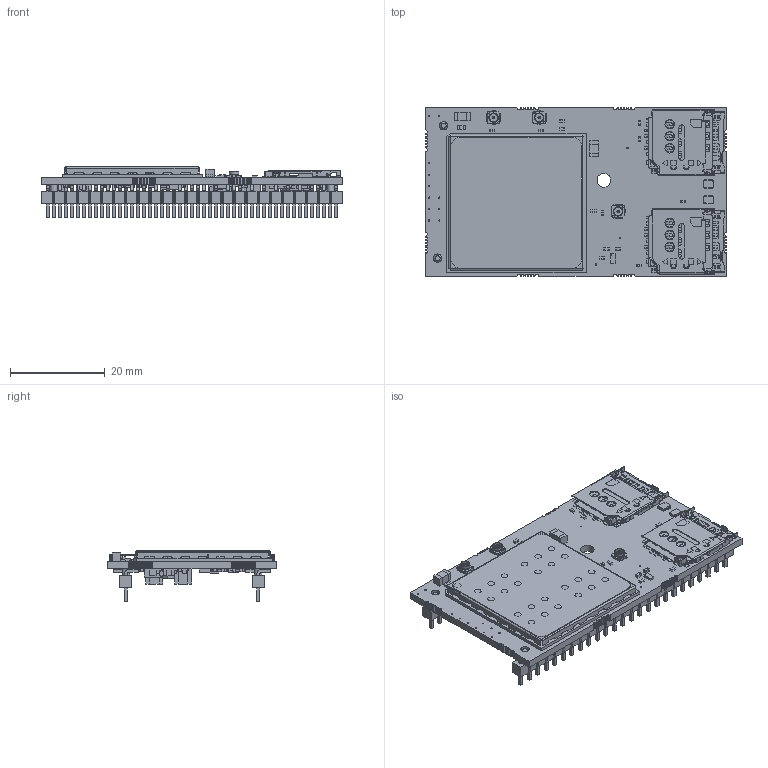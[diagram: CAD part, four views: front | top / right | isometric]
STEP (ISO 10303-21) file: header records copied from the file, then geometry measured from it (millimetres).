
FILE_DESCRIPTION(('Open CASCADE Model'),'2;1');
FILE_NAME('Open CASCADE Shape Model','2022-03-07T12:56:11',('Author'),( 'Open CASCADE'),'Open CASCADE STEP processor 6.8','Open CASCADE 6.8' ,'Unknown');
FILE_SCHEMA(('AUTOMOTIVE_DESIGN { 1 0 10303 214 1 1 1 1 }'));
Length unit declared in the file: millimetre
Products named in the file (289): PCB; Board-PB2528r0; Open CASCADE STEP translator 6.8 1.1.1; Open CASCADE STEP translator 6.8 1.1.1.1; R4-PB2528r0; 6386567344; Extruded; 6386567104; 6386566864; C32-PB2528r0; 6386566544; 6386566304; TP13-PB2528r0; TEST-POINT-10MILS-RND; TP3-PB2528r0; R3-PB2528r0; 6386565904; 6386565504; R2-PB2528r0; U2-PB2528r0; 6386273632; L1-PB2528r0; 6386283232; 6386282992; 6386282752; 6386282512; 6386282272; C14-PB2528r0; 6386570624; 6386570304; C2-PB2528r0; C1-PB2528r0; FB1-PB2528r0; 6386571664; 6386571264; C3-PB2528r0; 6386282032; 6386281792; C4-PB2528r0; C8-PB2528r0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
Assembly tree (908 placements, depth 5):
  PCB
    Board-PB2528r0
      Open CASCADE STEP translator 6.8 1.1.1
        Open CASCADE STEP translator 6.8 1.1.1.1
    R4-PB2528r0
      6386567344
        Extruded
      6386567104
        Extruded
      6386566864
        Extruded
    C32-PB2528r0
      6386566544
        Extruded
      6386566304  x2
        Extruded
    TP13-PB2528r0
      TEST-POINT-10MILS-RND
    TP3-PB2528r0
      TEST-POINT-10MILS-RND
    R3-PB2528r0
      6386565904  x2
        Extruded
      6386565504
        Extruded
    R2-PB2528r0
      6386565904  x2
        Extruded
      6386565504
        Extruded
    U2-PB2528r0
      6386273632
        Extruded
    L1-PB2528r0
      6386283232
        Extruded
      6386282992
        Extruded
      6386282752
        Extruded
      6386282512
        Extruded
      6386282272
        Extruded
    C14-PB2528r0
      6386570624
        Extruded
      6386570304  x2
        Extruded
    C2-PB2528r0
      6386570624
        Extruded
      6386570304  x2
        Extruded
    C1-PB2528r0
      6386570624
        Extruded
      6386570304  x2
        Extruded
    FB1-PB2528r0
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Bounding box: 63.5 x 35.56 x 10.77 mm (x, y, z)
Volume: 6039.5 mm3; surface area: 17646.5 mm2
Topology: 927 solids, 1079 shells, 9772 faces, 23555 edges, 15878 vertices
Faces by surface type: plane 8176, cylinder 1398, sphere 94, torus 48, bspline 40, cone 16
Full cylindrical faces by diameter (mm): 0.08 x2, 0.1 x6, 0.102 x15, 0.254 x15, 0.3 x1, 1.575 x4, 1.778 x4, 2.87 x1
Entity records: 171676 total; most frequent: CARTESIAN_POINT 28648, DIRECTION 25898, ORIENTED_EDGE 25030, EDGE_CURVE 12683, LINE 10862, VECTOR 10862, VERTEX_POINT 8526, AXIS2_PLACEMENT_3D 7518
